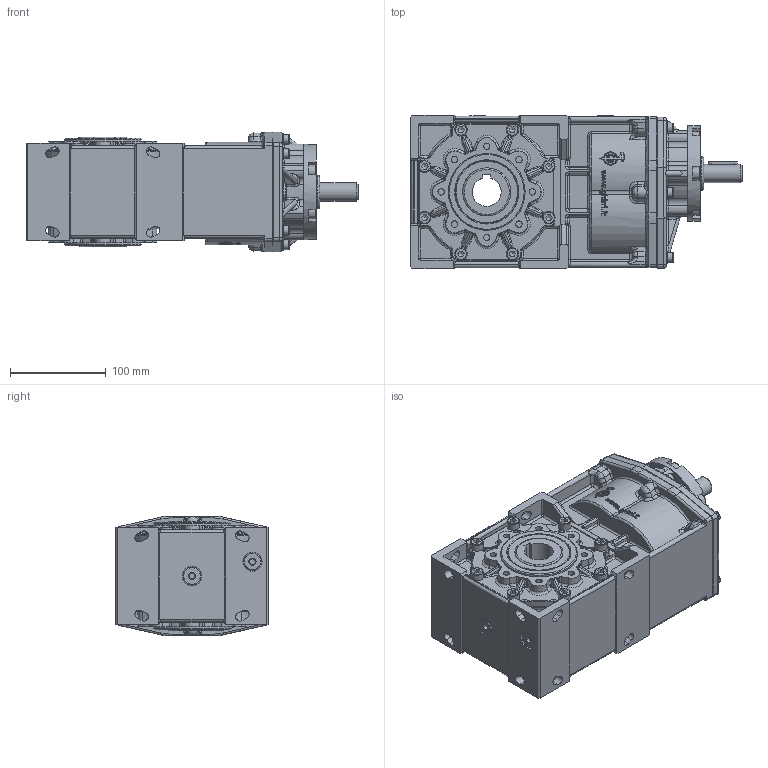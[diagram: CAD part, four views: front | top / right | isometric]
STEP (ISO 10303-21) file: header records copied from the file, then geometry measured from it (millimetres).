
FILE_DESCRIPTION((''),'2;1');
FILE_NAME('S:\Ghirri\3D\MO_RO20\Assiemi\RO20_2s.stp','2006-02-01T16:39:33',('Stefano'),(''),'Autodesk Inventor 10','Autodesk Inventor 10','');
FILE_SCHEMA(('AUTOMOTIVE_DESIGN { 1 0 10303 214 1 1 1 1 }'));
Length unit declared in the file: millimetre
Products named in the file (15): RO20_2s; Primario_MO20_2S; 3902001-A0; 3902003-A0; DIN 3760 AS AS - 50 x 65 x 8 - NBR; UNI 5931  M 8 x  20; 3902009-A0; 3902002-A0; Guarnizione 1_4 GAS; Tappo 1_4 GAS; UNI 5931  M 6 x  25; UNI 8839 A 6; Coperchio_Forato_2S_3902022-B0; ALBERO PIGNONE_RO20_2S; 6 x 6 x 30
Assembly tree (46 placements, depth 3):
  RO20_2s
    Primario_MO20_2S
      3902001-A0
      3902003-A0
      DIN 3760 AS AS - 50 x 65 x 8 - NBR  x2
      UNI 5931  M 8 x  20  x8
      3902009-A0
      3902002-A0
      Guarnizione 1_4 GAS  x5
      Tappo 1_4 GAS  x5
      UNI 5931  M 6 x  25  x6
      UNI 8839 A 6  x6
    Coperchio_Forato_2S_3902022-B0
    UNI 5931  M 8 x  20  x6
    ALBERO PIGNONE_RO20_2S
    6 x 6 x 30
Bounding box: 346 x 160 x 125 mm (x, y, z)
Volume: 3598562.4 mm3; surface area: 458336.4 mm2
Topology: 44 solids, 52 shells, 2864 faces, 7177 edges, 4421 vertices
Faces by surface type: plane 1017, cylinder 884, bspline 744, torus 116, cone 101, sphere 2
Full cylindrical faces by diameter (mm): 6 x6, 8 x14, 8.5 x8, 10 x6, 13 x24, 18 x5, 19 x6, 35 x1, 36 x2, 50 x3, 54.8 x2, 56 x1, 61 x2, 62 x2, 65 x4, 68 x2, 80 x2, 100 x1, 122.4 x1, 128 x3
Entity records: 110400 total; most frequent: CARTESIAN_POINT 54133, ORIENTED_EDGE 11998, DIRECTION 11088, EDGE_CURVE 5999, AXIS2_PLACEMENT_3D 4343, VERTEX_POINT 3815, EDGE_LOOP 2782, FACE_OUTER_BOUND 2462
